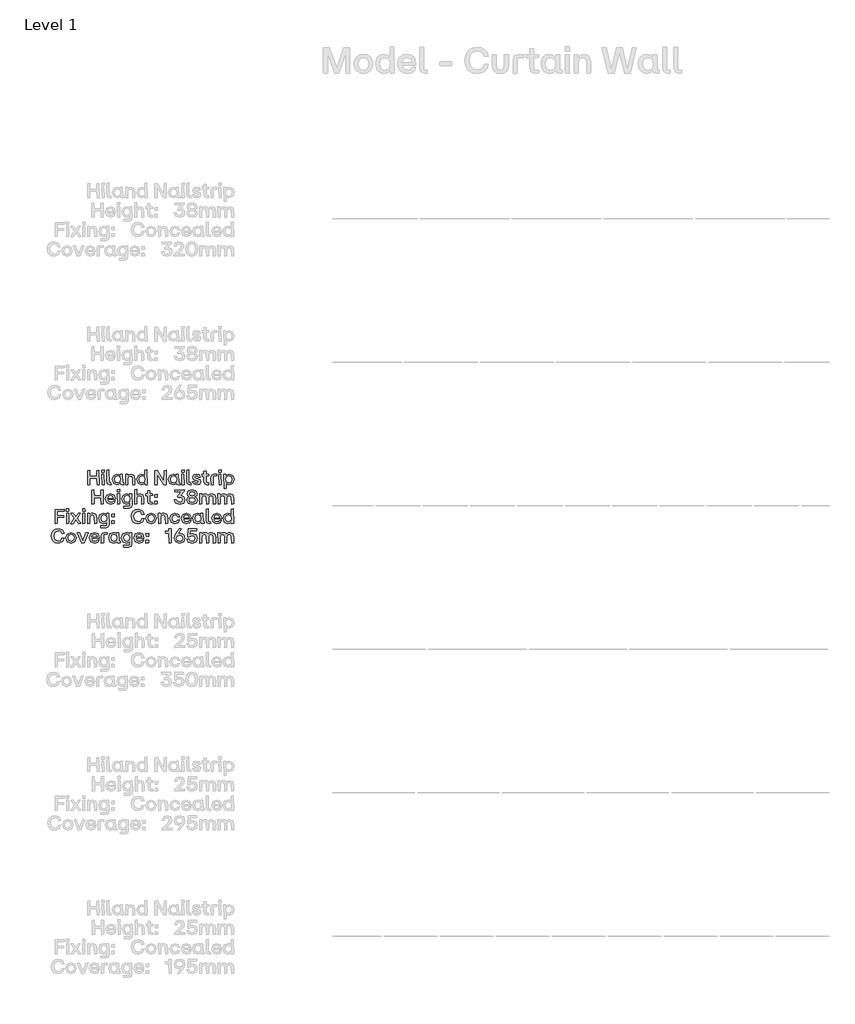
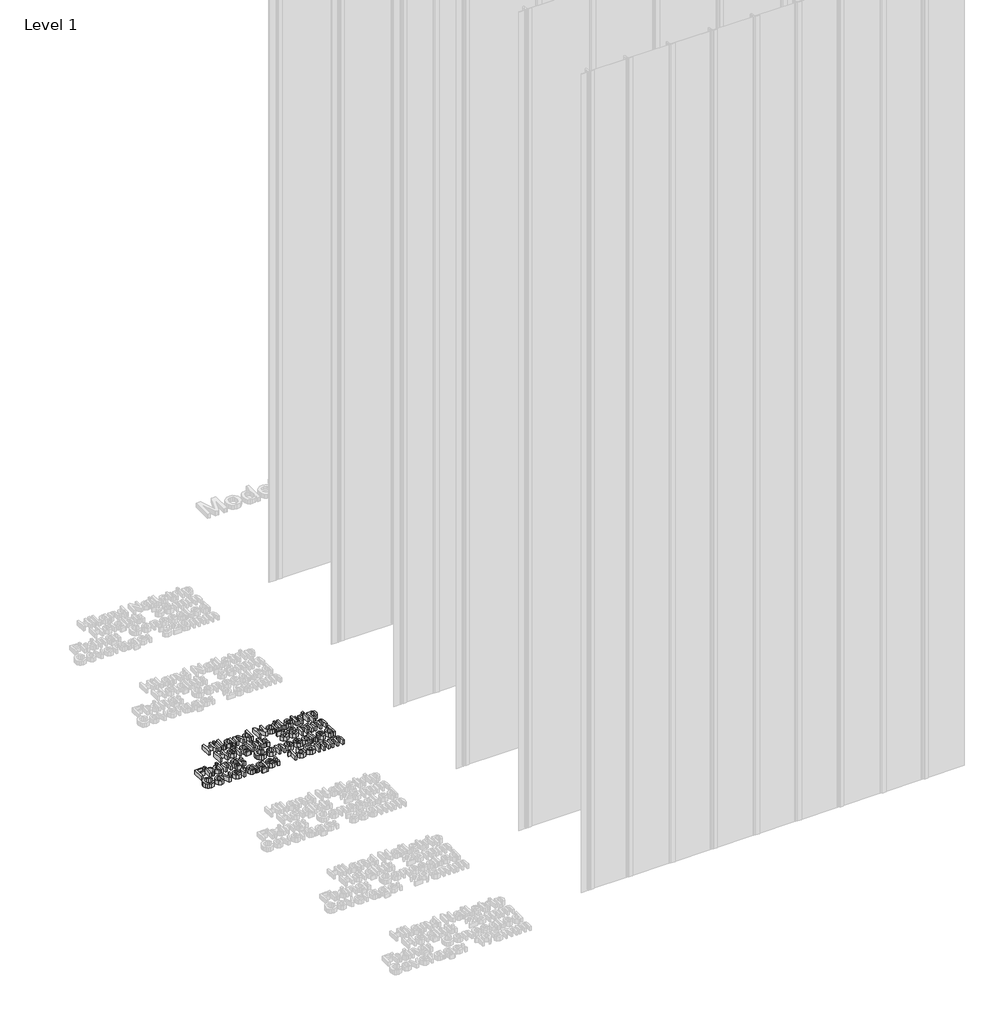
# One storey, part 11 of 64: 1 proxy.
"""IFC4 building model written with IfcOpenShell, lengths in millimetres."""

from ifc_helpers import new_model, si_unit, origin, origin_with_axes, place, context, project, spatial, polyline, outline, extrude, element, save

model = new_model("IFC4")

# Units and contexts
model_context = context("Model", 3, world=origin())
ifc_project = project(units=[si_unit("LENGTHUNIT", "METRE", prefix="MILLI")], contexts=[model_context])

# Site, building, storey
site = spatial("IfcSite", under=ifc_project)
building = spatial("IfcBuilding", under=site)
storey = spatial("IfcBuildingStorey", under=building, Name="Level 1", Elevation=0.0)

# Proxy
placement = place(None, origin())
element("IfcBuildingElementProxy", 1, Name="50mm", ObjectType="50mm", at=placement, inside=storey, context=model_context, shape_type="SweptSolid", body=[
    extrude(outline(polyline([(-779.9316481, -2933.5188866), (-780.6289799, -2911.5808277), (-804.4777279, -2911.5808277), (-804.4777279, -2932.8215548), (-811.9810183, -2933.5188866), (-812.7062434, -2884.2454206), (-805.2168997, -2883.5201955), (-804.4777279, -2904.6075096), (-780.6289799, -2904.6075096), (-780.6289799, -2884.2454206), (-773.1396362, -2883.5201955), (-772.4423044, -2932.8215548), (-779.9316481, -2933.5188866)])), origin_with_axes(), (0.0, 0.0, 1.0), 20.0),
    extrude(outline(polyline([(-762.3449397, -2933.5188866), (-763.0701648, -2897.8154977), (-755.8597538, -2897.1181659), (-755.162422, -2932.8215548), (-762.3449397, -2933.5188866)])), origin_with_axes(), (0.0, 0.0, 1.0), 20.0),
    extrude(outline(polyline([(-763.2793643, -2890.4516737), (-763.6280302, -2882.4044646), (-755.2321552, -2881.6652929), (-754.4929835, -2890.1030078), (-763.2793643, -2890.4516737)])), origin_with_axes(), (0.0, 0.0, 1.0), 20.0),
    extrude(outline(polyline([(-735.7626509, -2933.5188866), (-743.4611942, -2930.8690257), (-746.1110551, -2923.1565359), (-746.1110551, -2882.8228637), (-738.9006441, -2882.083692), (-738.2033123, -2927.2429003), (-731.5368201, -2927.2429003), (-730.8394883, -2932.8215548), (-735.7626509, -2933.5188866)])), origin_with_axes(), (0.0, 0.0, 1.0), 20.0),
    extrude(outline(polyline([(-710.6726522, -2933.9372857), (-722.4436133, -2928.8955767), (-726.8228571, -2915.3882594), (-722.4436133, -2901.7484491), (-710.6726522, -2896.6579269), (-704.0549733, -2898.2617901), (-699.0690509, -2902.6549805), (-698.7482782, -2897.8154977), (-691.5657605, -2897.1181659), (-690.8405354, -2927.2429003), (-686.8936374, -2927.2429003), (-686.1963056, -2932.8215548), (-692.1933592, -2933.5188866), (-696.848049, -2932.2113895), (-698.3996123, -2928.288898), (-703.7551206, -2932.3334225), (-710.6726522, -2933.9372857)]), holes=[polyline([(-718.7617013, -2915.3882594), (-716.0072406, -2924.2792401), (-708.4830304, -2927.521833), (-701.1192064, -2924.2931867), (-698.4693455, -2915.3882594), (-701.1401263, -2906.392679), (-708.4830304, -2903.1152195), (-716.0072406, -2906.392679), (-718.7617013, -2915.3882594)])]), origin_with_axes(), (0.0, 0.0, 1.0), 20.0),
    extrude(outline(polyline([(-679.3345605, -2933.5188866), (-680.0597856, -2897.8154977), (-673.1980405, -2897.1181659), (-672.5007087, -2902.6549805), (-667.3369666, -2898.1571903), (-660.7158011, -2896.6579269), (-651.1553819, -2900.8419178), (-647.8430558, -2913.0870644), (-647.8430558, -2932.8215548), (-655.0674134, -2933.5188866), (-655.7926384, -2913.0870644), (-657.7451675, -2905.7092939), (-663.9165541, -2903.3941522), (-670.1437272, -2905.7441604), (-672.1520428, -2913.0870644), (-672.1520428, -2932.8215548), (-679.3345605, -2933.5188866)])), origin_with_axes(), (0.0, 0.0, 1.0), 20.0),
    extrude(outline(polyline([(-624.9845189, -2933.9372857), (-636.7554799, -2928.8955767), (-641.1347237, -2915.3882594), (-636.7554799, -2901.7484491), (-624.9845189, -2896.6579269), (-618.36684, -2898.2617901), (-613.3809175, -2902.6549805), (-613.0601448, -2882.8228637), (-605.8776272, -2882.083692), (-605.1524021, -2932.8215548), (-612.0141471, -2933.5188866), (-612.7114789, -2928.0099653), (-618.0669873, -2932.3334225), (-624.9845189, -2933.9372857)]), holes=[polyline([(-633.0735679, -2915.3882594), (-630.3191073, -2924.2792401), (-622.794897, -2927.521833), (-615.431073, -2924.2931867), (-612.7812121, -2915.3882594), (-615.451993, -2906.392679), (-622.794897, -2903.1152195), (-630.3191073, -2906.392679), (-633.0735679, -2915.3882594)])]), origin_with_axes(), (0.0, 0.0, 1.0), 20.0),
    extrude(outline(polyline([(-578.1238209, -2933.5188866), (-578.849046, -2884.2454206), (-569.992932, -2883.5201955), (-546.7020494, -2920.7856077), (-546.4231166, -2884.2454206), (-539.2127057, -2883.5201955), (-538.5153739, -2932.8215548), (-547.329648, -2933.5188866), (-570.6205306, -2896.2395278), (-570.8994633, -2932.8215548), (-578.1238209, -2933.5188866)])), origin_with_axes(), (0.0, 0.0, 1.0), 20.0),
    extrude(outline(polyline([(-515.196598, -2933.9372857), (-526.967559, -2928.8955767), (-531.3468028, -2915.3882594), (-526.967559, -2901.7484491), (-515.196598, -2896.6579269), (-508.5789191, -2898.2617901), (-503.5929966, -2902.6549805), (-503.272224, -2897.8154977), (-496.0897063, -2897.1181659), (-495.3644812, -2927.2429003), (-491.4175831, -2927.2429003), (-490.7202513, -2932.8215548), (-496.7173049, -2933.5188866), (-501.3719948, -2932.2113895), (-502.923558, -2928.288898), (-508.2790664, -2932.3334225), (-515.196598, -2933.9372857)]), holes=[polyline([(-523.285647, -2915.3882594), (-520.5311864, -2924.2792401), (-513.0069761, -2927.521833), (-505.6431521, -2924.2931867), (-502.9932912, -2915.3882594), (-505.6640721, -2906.392679), (-513.0069761, -2903.1152195), (-520.5311864, -2906.392679), (-523.285647, -2915.3882594)])]), origin_with_axes(), (0.0, 0.0, 1.0), 20.0),
    extrude(outline(polyline([(-484.7929309, -2890.4516737), (-485.1415968, -2882.4044646), (-476.7457217, -2881.6652929), (-476.00655, -2890.1030078), (-484.7929309, -2890.4516737)])), origin_with_axes(), (0.0, 0.0, 1.0), 20.0),
    extrude(outline(polyline([(-483.8585062, -2933.5188866), (-484.5837313, -2897.8154977), (-477.3733204, -2897.1181659), (-476.6759885, -2932.8215548), (-483.8585062, -2933.5188866)])), origin_with_axes(), (0.0, 0.0, 1.0), 20.0),
    extrude(outline(polyline([(-457.2762175, -2933.5188866), (-464.9747607, -2930.8690257), (-467.6246216, -2923.1565359), (-467.6246216, -2882.8228637), (-460.4142106, -2882.083692), (-459.7168788, -2927.2429003), (-453.0503867, -2927.2429003), (-452.3530549, -2932.8215548), (-457.2762175, -2933.5188866)])), origin_with_axes(), (0.0, 0.0, 1.0), 20.0),
    extrude(outline(polyline([(-432.716191, -2933.9372857), (-443.4481276, -2930.9875721), (-447.9180245, -2922.5289372), (-440.9725996, -2921.7339789), (-437.890393, -2926.5455685), (-432.716191, -2927.8007657), (-428.2532673, -2926.6153017), (-426.579671, -2923.4354686), (-427.7790817, -2920.5764081), (-431.8375529, -2919.0841181), (-436.9280751, -2918.1775867), (-444.6545116, -2914.6351411), (-447.1509595, -2907.5363032), (-443.4899675, -2899.6215871), (-433.6227223, -2896.6579269), (-423.9298101, -2899.4123876), (-419.7039793, -2907.2294772), (-426.6494042, -2908.0244355), (-429.3968915, -2903.8613645), (-433.6227223, -2902.7944469), (-437.8764464, -2903.8962311), (-439.3408432, -2907.0900108), (-438.2948455, -2909.8584181), (-434.4874138, -2911.3716282), (-429.0482256, -2912.3897326), (-421.0358831, -2915.8763917), (-418.7695547, -2923.0170695), (-422.3956801, -2931.1130919), (-432.716191, -2933.9372857)])), origin_with_axes(), (0.0, 0.0, 1.0), 20.0),
    extrude(outline(polyline([(-396.9570155, -2933.5188866), (-404.6695054, -2930.8690257), (-407.3193663, -2923.1565359), (-407.3193663, -2903.3941522), (-413.5256194, -2903.3941522), (-414.2508445, -2897.8154977), (-407.3193663, -2897.1181659), (-407.3193663, -2887.104481), (-400.0950087, -2886.3792559), (-399.3976769, -2897.1181659), (-390.611296, -2897.1181659), (-389.8860709, -2902.6549805), (-399.3976769, -2903.3941522), (-399.3976769, -2927.2429003), (-390.611296, -2927.2429003), (-389.8860709, -2932.8215548), (-396.9570155, -2933.5188866)])), origin_with_axes(), (0.0, 0.0, 1.0), 20.0),
    extrude(outline(polyline([(-382.480407, -2933.5188866), (-383.1777388, -2907.4386768), (-380.5278779, -2899.7471068), (-372.8293347, -2897.1181659), (-362.6761835, -2897.1181659), (-361.9788517, -2903.1152195), (-375.2699961, -2903.8125513), (-375.2699961, -2932.8215548), (-382.480407, -2933.5188866)])), origin_with_axes(), (0.0, 0.0, 1.0), 20.0),
    extrude(outline(polyline([(-354.4337214, -2933.5188866), (-355.1589465, -2897.8154977), (-347.9485356, -2897.1181659), (-347.2512038, -2932.8215548), (-354.4337214, -2933.5188866)])), origin_with_axes(), (0.0, 0.0, 1.0), 20.0),
    extrude(outline(polyline([(-355.3681461, -2890.4516737), (-355.716812, -2882.4044646), (-347.3209369, -2881.6652929), (-346.5817652, -2890.1030078), (-355.3681461, -2890.4516737)])), origin_with_axes(), (0.0, 0.0, 1.0), 20.0),
    extrude(outline(polyline([(-337.4746117, -2947.0750171), (-338.1998368, -2897.8154977), (-331.3380917, -2897.1181659), (-330.6407599, -2902.5852473), (-325.2852516, -2898.2617901), (-318.36772, -2896.6579269), (-306.596759, -2901.7135826), (-302.2175152, -2915.2487931), (-306.596759, -2928.8607101), (-318.36772, -2933.9372857), (-324.9853989, -2932.3334225), (-329.9713214, -2927.9402321), (-330.292094, -2946.3776853), (-337.4746117, -2947.0750171)]), holes=[polyline([(-330.5710268, -2915.2487931), (-327.9002459, -2924.2443735), (-320.5573419, -2927.521833), (-313.0331316, -2924.2443735), (-310.2786709, -2915.2487931), (-313.0331316, -2906.3578124), (-320.5573419, -2903.1152195), (-327.9211659, -2906.3368925), (-330.5710268, -2915.2487931)])]), origin_with_axes(), (0.0, 0.0, 1.0), 20.0),
    extrude(outline(polyline([(-765.6502925, -3001.3705811), (-766.3476243, -2979.4325222), (-790.1963724, -2979.4325222), (-790.1963724, -3000.6732493), (-797.6996627, -3001.3705811), (-798.4248878, -2952.0971151), (-790.9355441, -2951.37189), (-790.1963724, -2972.459204), (-766.3476243, -2972.459204), (-766.3476243, -2952.0971151), (-758.8582806, -2951.37189), (-758.1609488, -3000.6732493), (-765.6502925, -3001.3705811)])), origin_with_axes(), (0.0, 0.0, 1.0), 20.0),
    extrude(outline(polyline([(-732.5130847, -3001.7889802), (-745.9158022, -2996.7472711), (-750.9226446, -2983.2399539), (-745.9367221, -2969.586197), (-732.5130847, -2964.5096214), (-720.2330714, -2969.5164638), (-715.7352812, -2983.1702207), (-715.7352812, -2985.0809099), (-742.7917556, -2985.8200816), (-739.7234956, -2992.8631329), (-732.5130847, -2995.3735275), (-726.7252306, -2994.0974102), (-723.7267038, -2990.520098), (-716.6418126, -2989.9343393), (-721.2999891, -2998.6998002), (-732.5130847, -3001.7889802)]), holes=[polyline([(-742.7220224, -2980.0322275), (-723.5175043, -2980.0322275), (-726.1603919, -2973.3866554), (-732.5130847, -2970.966914), (-739.6049492, -2973.2681089), (-742.7220224, -2980.0322275)])]), origin_with_axes(), (0.0, 0.0, 1.0), 20.0),
    extrude(outline(polyline([(-708.8316963, -2958.3033682), (-709.1803622, -2950.2561591), (-700.7844871, -2949.5169873), (-700.0453154, -2957.9547023), (-708.8316963, -2958.3033682)])), origin_with_axes(), (0.0, 0.0, 1.0), 20.0),
    extrude(outline(polyline([(-707.8972716, -3001.3705811), (-708.6224967, -2965.6671922), (-701.4120858, -2964.9698603), (-700.7147539, -3000.6732493), (-707.8972716, -3001.3705811)])), origin_with_axes(), (0.0, 0.0, 1.0), 20.0),
    extrude(outline(polyline([(-686.2241988, -3014.9267115), (-686.9633706, -3009.348057), (-665.7226435, -3008.6507252), (-665.7226435, -2995.7919266), (-671.0293386, -3000.185117), (-677.6470175, -3001.7889802), (-689.4179785, -2996.7124045), (-693.7972223, -2983.1004875), (-689.4179785, -2969.565277), (-677.6470175, -2964.5096214), (-670.7294859, -2966.1134845), (-665.6529103, -2970.4369418), (-665.3739776, -2965.6671922), (-658.5401258, -2964.9698603), (-657.8149007, -3004.9269733), (-660.3950284, -3012.3675038), (-667.8146389, -3014.9267115), (-686.2241988, -3014.9267115)]), holes=[polyline([(-685.7360666, -2983.1004875), (-682.9816059, -2992.0960679), (-675.4573956, -2995.3735275), (-668.1144916, -2992.0960679), (-665.4437108, -2983.1004875), (-668.0935716, -2974.1885869), (-675.4573956, -2970.966914), (-682.9816059, -2974.2095069), (-685.7360666, -2983.1004875)])]), origin_with_axes(), (0.0, 0.0, 1.0), 20.0),
    extrude(outline(polyline([(-648.0940952, -3001.3705811), (-648.8193203, -2950.6745581), (-641.6089093, -2949.9353864), (-640.9115775, -2970.2277422), (-635.8245419, -2965.9391516), (-629.4753358, -2964.5096214), (-619.9149166, -2968.6936122), (-616.6025905, -2980.9387589), (-616.6025905, -3000.6732493), (-623.8269481, -3001.3705811), (-624.5521731, -2980.9387589), (-626.5047022, -2973.5609883), (-632.6760888, -2971.2458467), (-638.9032619, -2973.5958549), (-640.9115775, -2980.9387589), (-640.9115775, -3000.6732493), (-648.0940952, -3001.3705811)])), origin_with_axes(), (0.0, 0.0, 1.0), 20.0),
    extrude(outline(polyline([(-593.3256545, -3001.3705811), (-601.0381444, -2998.7207202), (-603.6880053, -2991.0082303), (-603.6880053, -2971.2458467), (-609.8942584, -2971.2458467), (-610.6194835, -2965.6671922), (-603.6880053, -2964.9698603), (-603.6880053, -2954.9561755), (-596.4636477, -2954.2309504), (-595.7663158, -2964.9698603), (-586.979935, -2964.9698603), (-586.2547099, -2970.506675), (-595.7663158, -2971.2458467), (-595.7663158, -2995.0945947), (-586.979935, -2995.0945947), (-586.2547099, -3000.6732493), (-593.3256545, -3001.3705811)])), origin_with_axes(), (0.0, 0.0, 1.0), 20.0),
    extrude(outline(polyline([(-578.849046, -2977.7310326), (-579.5463778, -2968.1078535), (-570.0626652, -2967.3686818), (-569.3374401, -2977.0337007), (-578.849046, -2977.7310326)])), origin_with_axes(), (0.0, 0.0, 1.0), 20.0),
    extrude(outline(polyline([(-579.1977119, -3001.0219152), (-579.5463778, -2991.747402), (-570.0626652, -2991.0082303), (-569.3374401, -3000.6732493), (-579.1977119, -3001.0219152)])), origin_with_axes(), (0.0, 0.0, 1.0), 20.0),
    extrude(outline(polyline([(-491.7244091, -3001.7889802), (-505.1201533, -2997.7235357), (-510.9428739, -2985.959548), (-503.57905, -2985.1506431), (-499.415979, -2992.7236666), (-491.7244091, -2994.9551284), (-484.5837313, -2992.5493336), (-481.9338704, -2985.959548), (-484.7022777, -2979.0908296), (-493.3701122, -2976.8942344), (-498.8093003, -2976.8942344), (-499.5066322, -2972.8078699), (-486.1457546, -2958.6520341), (-508.8508785, -2958.3731014), (-509.5761036, -2952.0971151), (-475.8670836, -2951.37189), (-475.1697518, -2956.1834795), (-488.0703904, -2970.0882759), (-477.3454271, -2975.2136647), (-473.7332483, -2985.959548), (-478.5797044, -2997.5352561), (-491.7244091, -3001.7889802)])), origin_with_axes(), (0.0, 0.0, 1.0), 20.0),
    extrude(outline(polyline([(-434.5710936, -2998.1768014), (-448.6153563, -3001.7889802), (-462.6875123, -2998.1768014), (-467.6246216, -2987.8702371), (-465.1490936, -2980.1368273), (-458.4895748, -2975.8063967), (-464.0542827, -2971.1691402), (-465.9091853, -2964.370155), (-461.2231155, -2954.5796163), (-448.6223296, -2950.9534909), (-436.0354904, -2954.5796163), (-431.3633672, -2964.370155), (-433.2182699, -2971.1691402), (-438.7829777, -2975.527464), (-432.1234589, -2980.1368273), (-429.647931, -2987.8702371), (-434.5710936, -2998.1768014)]), holes=[polyline([(-459.4239995, -2986.9358125), (-456.7218387, -2992.9502994), (-448.6153563, -2994.9551284), (-440.5402539, -2992.9502994), (-437.8485531, -2986.9358125), (-440.5402539, -2981.3606446), (-448.6153563, -2979.5022554), (-456.7218387, -2981.3606446), (-459.4239995, -2986.9358125)]), polyline([(-457.6806699, -2965.4579926), (-455.3446083, -2970.8065276), (-448.6153563, -2972.6684036), (-441.8861043, -2970.8065276), (-439.5500427, -2965.4579926), (-441.8861043, -2959.788685), (-448.6153563, -2957.8152359), (-455.3446083, -2959.788685), (-457.6806699, -2965.4579926)])]), origin_with_axes(), (0.0, 0.0, 1.0), 20.0),
    extrude(outline(polyline([(-421.3775756, -3001.3705811), (-422.1028007, -2965.6671922), (-415.2410557, -2964.9698603), (-414.5437239, -2970.506675), (-409.5578014, -2966.0088848), (-403.1074821, -2964.5096214), (-396.8210358, -2966.0088848), (-392.605665, -2970.506675), (-386.7829443, -2966.0646713), (-379.5376668, -2964.5096214), (-370.2631536, -2968.6796656), (-367.0554273, -2980.9387589), (-367.0554273, -3000.6732493), (-374.2658383, -3001.3705811), (-374.9631701, -2980.9387589), (-376.845966, -2973.5609883), (-382.8151263, -2971.2458467), (-388.7215268, -2973.5958549), (-390.6252426, -2980.9387589), (-390.6252426, -3000.6732493), (-397.8356536, -3001.3705811), (-398.5329854, -2980.9387589), (-400.4018347, -2973.5609883), (-406.3152085, -2971.2458467), (-412.2913421, -2973.5958549), (-414.195058, -2980.9387589), (-414.195058, -3000.6732493), (-421.3775756, -3001.3705811)])), origin_with_axes(), (0.0, 0.0, 1.0), 20.0),
    extrude(outline(polyline([(-358.0040603, -3001.3705811), (-358.7292854, -2965.6671922), (-351.8675404, -2964.9698603), (-351.1702086, -2970.506675), (-346.1842861, -2966.0088848), (-339.7339668, -2964.5096214), (-333.4475205, -2966.0088848), (-329.2321497, -2970.506675), (-323.409429, -2966.0646713), (-316.1641515, -2964.5096214), (-306.8896383, -2968.6796656), (-303.681912, -2980.9387589), (-303.681912, -3000.6732493), (-310.8923229, -3001.3705811), (-311.5896548, -2980.9387589), (-313.4724507, -2973.5609883), (-319.441611, -2971.2458467), (-325.3480115, -2973.5958549), (-327.2517273, -2980.9387589), (-327.2517273, -3000.6732493), (-334.4621383, -3001.3705811), (-335.1594701, -2980.9387589), (-337.0283194, -2973.5609883), (-342.9416931, -2971.2458467), (-348.9178268, -2973.5958549), (-350.8215426, -2980.9387589), (-350.8215426, -3000.6732493), (-358.0040603, -3001.3705811)])), origin_with_axes(), (0.0, 0.0, 1.0), 20.0),
    extrude(outline(polyline([(-925.3392781, -3069.2222755), (-926.0645031, -3019.9488095), (-894.4753719, -3019.2235844), (-893.7780401, -3025.527464), (-917.8359877, -3026.2247958), (-917.8359877, -3041.287163), (-895.9118755, -3041.287163), (-895.2145437, -3047.5631494), (-917.8359877, -3048.3023211), (-917.8359877, -3068.5249437), (-925.3392781, -3069.2222755)])), origin_with_axes(), (0.0, 0.0, 1.0), 20.0),
    extrude(outline(polyline([(-885.5216314, -3069.2222755), (-886.2468565, -3033.5188866), (-879.0364456, -3032.8215548), (-878.3391137, -3068.5249437), (-885.5216314, -3069.2222755)])), origin_with_axes(), (0.0, 0.0, 1.0), 20.0),
    extrude(outline(polyline([(-886.4560561, -3026.1550627), (-886.804722, -3018.1078535), (-878.4088469, -3017.3686818), (-877.6696752, -3025.8063967), (-886.4560561, -3026.1550627)])), origin_with_axes(), (0.0, 0.0, 1.0), 20.0),
    extrude(outline(polyline([(-871.4215821, -3069.2222755), (-858.6604099, -3050.7429824), (-870.8637167, -3033.658353), (-862.8722941, -3032.8215548), (-854.0859132, -3044.815662), (-845.8573978, -3033.2399539), (-837.7404555, -3032.8215548), (-849.3440569, -3049.9340775), (-836.303952, -3068.3436374), (-844.2953746, -3069.2222755), (-854.0161801, -3055.7916648), (-863.2906932, -3068.8038764), (-871.4215821, -3069.2222755)])), origin_with_axes(), (0.0, 0.0, 1.0), 20.0),
    extrude(outline(polyline([(-829.2887939, -3069.2222755), (-830.014019, -3033.5188866), (-822.803608, -3032.8215548), (-822.1062762, -3068.5249437), (-829.2887939, -3069.2222755)])), origin_with_axes(), (0.0, 0.0, 1.0), 20.0),
    extrude(outline(polyline([(-830.2232185, -3026.1550627), (-830.5718844, -3018.1078535), (-822.1760094, -3017.3686818), (-821.4368377, -3025.8063967), (-830.2232185, -3026.1550627)])), origin_with_axes(), (0.0, 0.0, 1.0), 20.0),
    extrude(outline(polyline([(-812.3296842, -3069.2222755), (-813.0549093, -3033.5188866), (-806.1931642, -3032.8215548), (-805.4958324, -3038.3583694), (-800.3320903, -3033.8605792), (-793.7109247, -3032.3613158), (-784.1505056, -3036.5453067), (-780.8381794, -3048.7904534), (-780.8381794, -3068.5249437), (-788.062537, -3069.2222755), (-788.7877621, -3048.7904534), (-790.7402912, -3041.4126828), (-796.9116778, -3039.0975411), (-803.1388509, -3041.4475493), (-805.1471665, -3048.7904534), (-805.1471665, -3068.5249437), (-812.3296842, -3069.2222755)])), origin_with_axes(), (0.0, 0.0, 1.0), 20.0),
    extrude(outline(polyline([(-766.5568239, -3082.778406), (-767.2959956, -3077.1997515), (-746.0552685, -3076.5024197), (-746.0552685, -3063.643621), (-751.3619636, -3068.0368114), (-757.9796426, -3069.6406746), (-769.7506036, -3064.564099), (-774.1298474, -3050.952182), (-769.7506036, -3037.4169715), (-757.9796426, -3032.3613158), (-751.0621109, -3033.965179), (-745.9855353, -3038.2886362), (-745.7066026, -3033.5188866), (-738.8727508, -3032.8215548), (-738.1475257, -3072.7786678), (-740.7276535, -3080.2191982), (-748.147264, -3082.778406), (-766.5568239, -3082.778406)]), holes=[polyline([(-766.0686916, -3050.952182), (-763.3142309, -3059.9477624), (-755.7900207, -3063.2252219), (-748.4471166, -3059.9477624), (-745.7763358, -3050.952182), (-748.4261967, -3042.0402814), (-755.7900207, -3038.8186084), (-763.3142309, -3042.0612013), (-766.0686916, -3050.952182)])]), origin_with_axes(), (0.0, 0.0, 1.0), 20.0),
    extrude(outline(polyline([(-728.8032794, -3045.582727), (-729.5006112, -3035.959548), (-720.0168986, -3035.2203762), (-719.2916735, -3044.8853952), (-728.8032794, -3045.582727)])), origin_with_axes(), (0.0, 0.0, 1.0), 20.0),
    extrude(outline(polyline([(-729.1519453, -3068.8736096), (-729.5006112, -3059.5990965), (-720.0168986, -3058.8599248), (-719.2916735, -3068.5249437), (-729.1519453, -3068.8736096)])), origin_with_axes(), (0.0, 0.0, 1.0), 20.0),
    extrude(outline(polyline([(-637.0483593, -3069.6406746), (-647.0550708, -3067.9269817), (-654.7605874, -3062.7859029), (-659.6767766, -3054.7160305), (-661.3155064, -3044.2159567), (-659.66283, -3033.8919591), (-654.7048008, -3025.7924501), (-646.9853376, -3020.5520015), (-637.0483593, -3018.8051853), (-622.8716035, -3023.4215219), (-615.9192053, -3035.7085085), (-623.2411893, -3036.5174134), (-628.4049314, -3028.3272513), (-637.0483593, -3025.8063967), (-648.7077472, -3030.743506), (-652.9475246, -3044.2159567), (-648.7286672, -3057.7999804), (-637.0483593, -3062.6673565), (-628.2340851, -3060.1813685), (-623.5480153, -3052.7234048), (-616.1284048, -3052.0679129), (-622.5926707, -3065.0382846), (-637.0483593, -3069.6406746)])), origin_with_axes(), (0.0, 0.0, 1.0), 20.0),
    extrude(outline(polyline([(-591.693898, -3069.6406746), (-604.8525494, -3064.5152858), (-609.8942584, -3051.0916483), (-604.8386027, -3037.5564378), (-591.693898, -3032.3613158), (-578.4236736, -3037.5564378), (-573.3540713, -3051.0916483), (-578.4236736, -3064.5152858), (-591.693898, -3069.6406746)]), holes=[polyline([(-601.8331026, -3051.0916483), (-599.1344285, -3059.9965756), (-591.693898, -3063.2252219), (-584.1557411, -3059.982629), (-581.4012805, -3051.0916483), (-584.1417945, -3042.0960679), (-591.693898, -3038.8186084), (-599.1344285, -3042.0960679), (-601.8331026, -3051.0916483)])]), origin_with_axes(), (0.0, 0.0, 1.0), 20.0),
    extrude(outline(polyline([(-565.083716, -3069.2222755), (-565.8089411, -3033.5188866), (-558.947196, -3032.8215548), (-558.2498642, -3038.3583694), (-553.0861221, -3033.8605792), (-546.4649565, -3032.3613158), (-536.9045374, -3036.5453067), (-533.5922113, -3048.7904534), (-533.5922113, -3068.5249437), (-540.8165689, -3069.2222755), (-541.5417939, -3048.7904534), (-543.494323, -3041.4126828), (-549.6657096, -3039.0975411), (-555.8928827, -3041.4475493), (-557.9011983, -3048.7904534), (-557.9011983, -3068.5249437), (-565.083716, -3069.2222755)])), origin_with_axes(), (0.0, 0.0, 1.0), 20.0),
    extrude(outline(polyline([(-508.5440525, -3069.6406746), (-521.8770368, -3064.5989656), (-526.8838792, -3051.0916483), (-521.8073036, -3037.5564378), (-508.5440525, -3032.3613158), (-497.4704233, -3035.7991616), (-492.2543813, -3044.8853952), (-499.2695393, -3045.6524602), (-502.8398782, -3040.3527384), (-508.5440525, -3038.8186084), (-516.1031293, -3042.0960679), (-518.8227234, -3051.0916483), (-516.0891827, -3060.0174956), (-508.5440525, -3063.2252219), (-502.6655453, -3061.7608251), (-499.6879384, -3057.0189688), (-492.6030472, -3056.3495302), (-497.2612237, -3066.2028288), (-508.5440525, -3069.6406746)])), origin_with_axes(), (0.0, 0.0, 1.0), 20.0),
    extrude(outline(polyline([(-468.3080068, -3069.6406746), (-481.7107242, -3064.5989656), (-486.7175667, -3051.0916483), (-481.7316442, -3037.4378914), (-468.3080068, -3032.3613158), (-456.0279935, -3037.3681582), (-451.5302033, -3051.0219152), (-451.5302033, -3052.9326043), (-478.5866777, -3053.6717761), (-475.5184177, -3060.7148274), (-468.3080068, -3063.2252219), (-462.5201527, -3061.9491047), (-459.5216259, -3058.3717925), (-452.4367347, -3057.7860338), (-457.0949112, -3066.5514947), (-468.3080068, -3069.6406746)]), holes=[polyline([(-478.5169445, -3047.883922), (-459.3124264, -3047.883922), (-461.9553139, -3041.2383498), (-468.3080068, -3038.8186084), (-475.3998713, -3041.1198034), (-478.5169445, -3047.883922)])]), origin_with_axes(), (0.0, 0.0, 1.0), 20.0),
    extrude(outline(polyline([(-430.4010493, -3069.6406746), (-442.1720104, -3064.5989656), (-446.5512542, -3051.0916483), (-442.1720104, -3037.4518381), (-430.4010493, -3032.3613158), (-423.7833704, -3033.965179), (-418.7974479, -3038.3583694), (-418.4766753, -3033.5188866), (-411.2941576, -3032.8215548), (-410.5689325, -3062.9462892), (-406.6220345, -3062.9462892), (-405.9247026, -3068.5249437), (-411.9217562, -3069.2222755), (-416.5764461, -3067.9147784), (-418.1280094, -3063.9922869), (-423.4835177, -3068.0368114), (-430.4010493, -3069.6406746)]), holes=[polyline([(-438.4900984, -3051.0916483), (-435.7356377, -3059.982629), (-428.2114274, -3063.2252219), (-420.8476035, -3059.9965756), (-418.1977426, -3051.0916483), (-420.8685234, -3042.0960679), (-428.2114274, -3038.8186084), (-435.7356377, -3042.0960679), (-438.4900984, -3051.0916483)])]), origin_with_axes(), (0.0, 0.0, 1.0), 20.0),
    extrude(outline(polyline([(-389.4397785, -3069.2222755), (-397.1383218, -3066.5724146), (-399.7881827, -3058.8599248), (-399.7881827, -3018.5262526), (-392.5777717, -3017.7870809), (-391.8804399, -3062.9462892), (-385.2139477, -3062.9462892), (-384.5166159, -3068.5249437), (-389.4397785, -3069.2222755)])), origin_with_axes(), (0.0, 0.0, 1.0), 20.0),
    extrude(outline(polyline([(-362.0904248, -3069.6406746), (-375.4931422, -3064.5989656), (-380.4999847, -3051.0916483), (-375.5140622, -3037.4378914), (-362.0904248, -3032.3613158), (-349.8104115, -3037.3681582), (-345.3126213, -3051.0219152), (-345.3126213, -3052.9326043), (-372.3690957, -3053.6717761), (-369.3008357, -3060.7148274), (-362.0904248, -3063.2252219), (-356.3025707, -3061.9491047), (-353.3040439, -3058.3717925), (-346.2191527, -3057.7860338), (-350.8773292, -3066.5514947), (-362.0904248, -3069.6406746)]), holes=[polyline([(-372.2993625, -3047.883922), (-353.0948444, -3047.883922), (-355.7377319, -3041.2383498), (-362.0904248, -3038.8186084), (-369.1822893, -3041.1198034), (-372.2993625, -3047.883922)])]), origin_with_axes(), (0.0, 0.0, 1.0), 20.0),
    extrude(outline(polyline([(-324.1834673, -3069.6406746), (-335.9544284, -3064.5989656), (-340.3336722, -3051.0916483), (-335.9544284, -3037.4518381), (-324.1834673, -3032.3613158), (-317.5657884, -3033.965179), (-312.5798659, -3038.3583694), (-312.2590933, -3018.5262526), (-305.0765756, -3017.7870809), (-304.3513505, -3068.5249437), (-311.2130956, -3069.2222755), (-311.9104274, -3063.7133542), (-317.2659357, -3068.0368114), (-324.1834673, -3069.6406746)]), holes=[polyline([(-332.2725164, -3051.0916483), (-329.5180557, -3059.982629), (-321.9938454, -3063.2252219), (-314.6300215, -3059.9965756), (-311.9801606, -3051.0916483), (-314.6509414, -3042.0960679), (-321.9938454, -3038.8186084), (-329.5180557, -3042.0960679), (-332.2725164, -3051.0916483)])]), origin_with_axes(), (0.0, 0.0, 1.0), 20.0),
    extrude(outline(polyline([(-915.5347927, -3137.4923691), (-925.5415043, -3135.7786761), (-933.2470208, -3130.6375973), (-938.1632101, -3122.5677249), (-939.8019399, -3112.0676511), (-938.1492635, -3101.7436536), (-933.1912343, -3093.6441446), (-925.4717711, -3088.403696), (-915.5347927, -3086.6568798), (-901.3580369, -3091.2732164), (-894.4056388, -3103.560203), (-901.7276228, -3104.3691079), (-906.8913649, -3096.1789457), (-915.5347927, -3093.6580912), (-927.1941807, -3098.5952004), (-931.4339581, -3112.0676511), (-927.2151006, -3125.6516749), (-915.5347927, -3130.5190509), (-906.7205186, -3128.033063), (-902.0344488, -3120.5750992), (-894.6148383, -3119.9196073), (-901.0791042, -3132.8899791), (-915.5347927, -3137.4923691)])), origin_with_axes(), (0.0, 0.0, 1.0), 20.0),
    extrude(outline(polyline([(-870.1803315, -3137.4923691), (-883.3389829, -3132.3669802), (-888.3806919, -3118.9433428), (-883.3250362, -3105.4081323), (-870.1803315, -3100.2130103), (-856.9101071, -3105.4081323), (-851.8405048, -3118.9433428), (-856.9101071, -3132.3669802), (-870.1803315, -3137.4923691)]), holes=[polyline([(-880.3195361, -3118.9433428), (-877.620862, -3127.8482701), (-870.1803315, -3131.0769164), (-862.6421746, -3127.8343234), (-859.8877139, -3118.9433428), (-862.628228, -3109.9477624), (-870.1803315, -3106.6703029), (-877.620862, -3109.9477624), (-880.3195361, -3118.9433428)])]), origin_with_axes(), (0.0, 0.0, 1.0), 20.0),
    extrude(outline(polyline([(-833.7377709, -3137.07397), (-848.1306995, -3101.5100474), (-840.8784487, -3100.6732493), (-829.4422069, -3130.5887841), (-818.6056705, -3101.2311147), (-811.2418465, -3100.6732493), (-824.3516847, -3136.5161045), (-833.7377709, -3137.07397)])), origin_with_axes(), (0.0, 0.0, 1.0), 20.0),
    extrude(outline(polyline([(-788.7459222, -3137.4923691), (-802.1486397, -3132.45066), (-807.1554821, -3118.9433428), (-802.1695596, -3105.2895859), (-788.7459222, -3100.2130103), (-776.465909, -3105.2198527), (-771.9681188, -3118.8736096), (-771.9681188, -3120.7842988), (-799.0245932, -3121.5234705), (-795.9563332, -3128.5665218), (-788.7459222, -3131.0769164), (-782.9580681, -3129.8007992), (-779.9595413, -3126.2234869), (-772.8746501, -3125.6377282), (-777.5328266, -3134.4031891), (-788.7459222, -3137.4923691)]), holes=[polyline([(-798.95486, -3115.7356165), (-779.7503418, -3115.7356165), (-782.3932294, -3109.0900443), (-788.7459222, -3106.6703029), (-795.8377868, -3108.9714978), (-798.95486, -3115.7356165)])]), origin_with_axes(), (0.0, 0.0, 1.0), 20.0),
    extrude(outline(polyline([(-764.5066683, -3137.07397), (-765.2040001, -3110.9937601), (-762.5541393, -3103.3021902), (-754.855596, -3100.6732493), (-744.7024448, -3100.6732493), (-744.005113, -3106.6703029), (-757.2962574, -3107.3676347), (-757.2962574, -3136.3766382), (-764.5066683, -3137.07397)])), origin_with_axes(), (0.0, 0.0, 1.0), 20.0),
    extrude(outline(polyline([(-723.1688384, -3137.4923691), (-734.9397994, -3132.45066), (-739.3190432, -3118.9433428), (-734.9397994, -3105.3035325), (-723.1688384, -3100.2130103), (-716.5511594, -3101.8168734), (-711.565237, -3106.2100639), (-711.2444643, -3101.3705811), (-704.0619466, -3100.6732493), (-703.3367216, -3130.7979836), (-699.3898235, -3130.7979836), (-698.6924917, -3136.3766382), (-704.6895453, -3137.07397), (-709.3442351, -3135.7664728), (-710.8957984, -3131.8439814), (-716.2513068, -3135.8885059), (-723.1688384, -3137.4923691)]), holes=[polyline([(-731.2578874, -3118.9433428), (-728.5034267, -3127.8343234), (-720.9792165, -3131.0769164), (-713.6153925, -3127.8482701), (-710.9655316, -3118.9433428), (-713.6363125, -3109.9477624), (-720.9792165, -3106.6703029), (-728.5034267, -3109.9477624), (-731.2578874, -3118.9433428)])]), origin_with_axes(), (0.0, 0.0, 1.0), 20.0),
    extrude(outline(polyline([(-687.1167836, -3150.6301005), (-687.8559553, -3145.0514459), (-666.6152282, -3144.3541141), (-666.6152282, -3131.4953155), (-671.9219233, -3135.8885059), (-678.5396022, -3137.4923691), (-690.3105633, -3132.4157935), (-694.6898071, -3118.8038764), (-690.3105633, -3105.2686659), (-678.5396022, -3100.2130103), (-671.6220706, -3101.8168734), (-666.545495, -3106.1403307), (-666.2665623, -3101.3705811), (-659.4327105, -3100.6732493), (-658.7074854, -3140.6303622), (-661.2876131, -3148.0708927), (-668.7072236, -3150.6301005), (-687.1167836, -3150.6301005)]), holes=[polyline([(-686.6286513, -3118.8038764), (-683.8741906, -3127.7994568), (-676.3499803, -3131.0769164), (-669.0070763, -3127.7994568), (-666.3362955, -3118.8038764), (-668.9861564, -3109.8919758), (-676.3499803, -3106.6703029), (-683.8741906, -3109.9128958), (-686.6286513, -3118.8038764)])]), origin_with_axes(), (0.0, 0.0, 1.0), 20.0),
    extrude(outline(polyline([(-633.4361805, -3137.4923691), (-646.8388979, -3132.45066), (-651.8457404, -3118.9433428), (-646.8598179, -3105.2895859), (-633.4361805, -3100.2130103), (-621.1561672, -3105.2198527), (-616.658377, -3118.8736096), (-616.658377, -3120.7842988), (-643.7148514, -3121.5234705), (-640.6465914, -3128.5665218), (-633.4361805, -3131.0769164), (-627.6483264, -3129.8007992), (-624.6497996, -3126.2234869), (-617.5649084, -3125.6377282), (-622.2230849, -3134.4031891), (-633.4361805, -3137.4923691)]), holes=[polyline([(-643.6451182, -3115.7356165), (-624.4406001, -3115.7356165), (-627.0834876, -3109.0900443), (-633.4361805, -3106.6703029), (-640.528045, -3108.9714978), (-643.6451182, -3115.7356165)])]), origin_with_axes(), (0.0, 0.0, 1.0), 20.0),
    extrude(outline(polyline([(-609.1969266, -3113.4344215), (-609.8942584, -3103.8112424), (-600.4105457, -3103.0720707), (-599.6853206, -3112.7370896), (-609.1969266, -3113.4344215)])), origin_with_axes(), (0.0, 0.0, 1.0), 20.0),
    extrude(outline(polyline([(-609.5455925, -3136.7253041), (-609.8942584, -3127.4507909), (-600.4105457, -3126.7116192), (-599.6853206, -3136.3766382), (-609.5455925, -3136.7253041)])), origin_with_axes(), (0.0, 0.0, 1.0), 20.0),
    extrude(outline(polyline([(-528.8364083, -3137.07397), (-529.57558, -3102.0679129), (-540.6213159, -3102.0679129), (-541.3604877, -3095.7919266), (-529.2269141, -3095.0945947), (-529.2269141, -3087.800504), (-521.9328233, -3087.0752789), (-521.2075982, -3136.3766382), (-528.8364083, -3137.07397)])), origin_with_axes(), (0.0, 0.0, 1.0), 20.0),
    extrude(outline(polyline([(-478.5169445, -3132.9736589), (-492.4217409, -3137.4923691), (-506.3544306, -3132.9736589), (-511.361273, -3120.3658997), (-509.6179435, -3111.6562253), (-504.0671822, -3101.7889802), (-493.9977108, -3087.5215712), (-485.7273555, -3087.0752789), (-497.0659708, -3104.787507), (-490.0229195, -3103.3510034), (-478.0427589, -3108.0091799), (-473.5240487, -3120.3658997), (-478.5169445, -3132.9736589)]), holes=[polyline([(-503.1606509, -3120.3658997), (-500.3713236, -3127.9737898), (-492.4217409, -3130.6585173), (-484.4930782, -3127.9737898), (-481.7246709, -3120.372873), (-484.4930782, -3112.7719562), (-492.4217409, -3110.0872288), (-500.2876438, -3112.7859029), (-503.1606509, -3120.3658997)])]), origin_with_axes(), (0.0, 0.0, 1.0), 20.0),
    extrude(outline(polyline([(-448.1969572, -3137.4923691), (-461.3974485, -3133.7965104), (-467.2062225, -3123.0854938), (-459.8423985, -3122.2905355), (-455.634001, -3128.7234215), (-448.1969572, -3130.6585173), (-440.7912934, -3127.9737898), (-438.197219, -3120.3658997), (-440.7773467, -3113.0648356), (-448.3364236, -3110.575361), (-458.6987744, -3114.5083125), (-463.5382572, -3114.2293797), (-462.4922594, -3087.800504), (-432.8556573, -3087.0752789), (-432.1304322, -3093.3791585), (-455.8397139, -3094.0764903), (-456.6346722, -3106.740036), (-451.4604701, -3104.5434408), (-445.7562959, -3103.7415092), (-434.2015077, -3108.1695663), (-429.9965969, -3120.3658997), (-434.8081864, -3132.9736589), (-448.1969572, -3137.4923691)])), origin_with_axes(), (0.0, 0.0, 1.0), 20.0),
    extrude(outline(polyline([(-421.3775756, -3137.07397), (-422.1028007, -3101.3705811), (-415.2410557, -3100.6732493), (-414.5437239, -3106.2100639), (-409.5578014, -3101.7122737), (-403.1074821, -3100.2130103), (-396.8210358, -3101.7122737), (-392.605665, -3106.2100639), (-386.7829443, -3101.7680602), (-379.5376668, -3100.2130103), (-370.2631536, -3104.3830545), (-367.0554273, -3116.6421478), (-367.0554273, -3136.3766382), (-374.2658383, -3137.07397), (-374.9631701, -3116.6421478), (-376.845966, -3109.2643772), (-382.8151263, -3106.9492356), (-388.7215268, -3109.2992438), (-390.6252426, -3116.6421478), (-390.6252426, -3136.3766382), (-397.8356536, -3137.07397), (-398.5329854, -3116.6421478), (-400.4018347, -3109.2643772), (-406.3152085, -3106.9492356), (-412.2913421, -3109.2992438), (-414.195058, -3116.6421478), (-414.195058, -3136.3766382), (-421.3775756, -3137.07397)])), origin_with_axes(), (0.0, 0.0, 1.0), 20.0),
    extrude(outline(polyline([(-358.0040603, -3137.07397), (-358.7292854, -3101.3705811), (-351.8675404, -3100.6732493), (-351.1702086, -3106.2100639), (-346.1842861, -3101.7122737), (-339.7339668, -3100.2130103), (-333.4475205, -3101.7122737), (-329.2321497, -3106.2100639), (-323.409429, -3101.7680602), (-316.1641515, -3100.2130103), (-306.8896383, -3104.3830545), (-303.681912, -3116.6421478), (-303.681912, -3136.3766382), (-310.8923229, -3137.07397), (-311.5896548, -3116.6421478), (-313.4724507, -3109.2643772), (-319.441611, -3106.9492356), (-325.3480115, -3109.2992438), (-327.2517273, -3116.6421478), (-327.2517273, -3136.3766382), (-334.4621383, -3137.07397), (-335.1594701, -3116.6421478), (-337.0283194, -3109.2643772), (-342.9416931, -3106.9492356), (-348.9178268, -3109.2992438), (-350.8215426, -3116.6421478), (-350.8215426, -3136.3766382), (-358.0040603, -3137.07397)])), origin_with_axes(), (0.0, 0.0, 1.0), 20.0),
])

save(model, "model.ifc")
